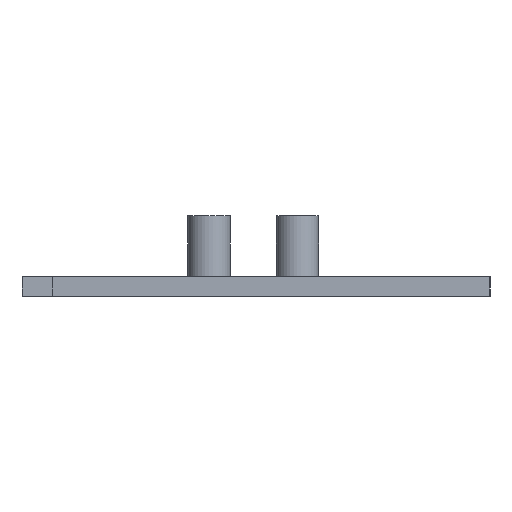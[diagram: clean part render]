
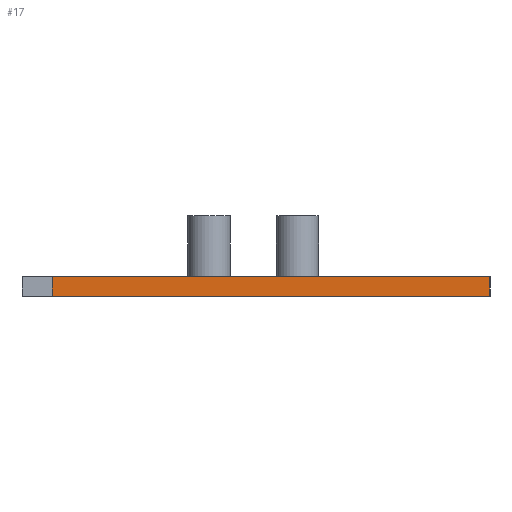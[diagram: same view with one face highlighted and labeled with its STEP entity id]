
A CAD part, left-side view. The second image highlights one B-rep face of the part: STEP entity #17.
In plain terms, the highlighted planar face has unit normal (-1, 0, 0).
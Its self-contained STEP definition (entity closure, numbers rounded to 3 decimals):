
#17 = ADVANCED_FACE('',(#18),#32,.F.);
#18 = FACE_BOUND('',#19,.F.);
#19 = EDGE_LOOP('',(#20,#55,#83,#111));
#20 = ORIENTED_EDGE('',*,*,#21,.F.);
#21 = EDGE_CURVE('',#22,#24,#26,.T.);
#22 = VERTEX_POINT('',#23);
#23 = CARTESIAN_POINT('',(-32.,18.4,0.));
#24 = VERTEX_POINT('',#25);
#25 = CARTESIAN_POINT('',(-32.,-21.15,0.));
#26 = SURFACE_CURVE('',#27,(#31,#43),.PCURVE_S1.);
#27 = LINE('',#28,#29);
#28 = CARTESIAN_POINT('',(-32.,21.15,0.));
#29 = VECTOR('',#30,1.);
#30 = DIRECTION('',(0.,-1.,0.));
#31 = PCURVE('',#32,#37);
#32 = PLANE('',#33);
#33 = AXIS2_PLACEMENT_3D('',#34,#35,#36);
#34 = CARTESIAN_POINT('',(-32.,21.15,0.));
#35 = DIRECTION('',(1.,0.,0.));
#36 = DIRECTION('',(0.,-1.,0.));
#37 = DEFINITIONAL_REPRESENTATION('',(#38),#42);
#38 = LINE('',#39,#40);
#39 = CARTESIAN_POINT('',(0.,0.));
#40 = VECTOR('',#41,1.);
#41 = DIRECTION('',(1.,0.));
#42 = ( GEOMETRIC_REPRESENTATION_CONTEXT(2) 
PARAMETRIC_REPRESENTATION_CONTEXT() REPRESENTATION_CONTEXT('2D SPACE',''
  ) );
#43 = PCURVE('',#44,#49);
#44 = PLANE('',#45);
#45 = AXIS2_PLACEMENT_3D('',#46,#47,#48);
#46 = CARTESIAN_POINT('',(-32.,21.15,0.));
#47 = DIRECTION('',(0.,0.,1.));
#48 = DIRECTION('',(0.,-1.,0.));
#49 = DEFINITIONAL_REPRESENTATION('',(#50),#54);
#50 = LINE('',#51,#52);
#51 = CARTESIAN_POINT('',(0.,0.));
#52 = VECTOR('',#53,1.);
#53 = DIRECTION('',(1.,0.));
#54 = ( GEOMETRIC_REPRESENTATION_CONTEXT(2) 
PARAMETRIC_REPRESENTATION_CONTEXT() REPRESENTATION_CONTEXT('2D SPACE',''
  ) );
#55 = ORIENTED_EDGE('',*,*,#56,.F.);
#56 = EDGE_CURVE('',#57,#22,#59,.T.);
#57 = VERTEX_POINT('',#58);
#58 = CARTESIAN_POINT('',(-32.,18.4,1.8));
#59 = SURFACE_CURVE('',#60,(#64,#71),.PCURVE_S1.);
#60 = LINE('',#61,#62);
#61 = CARTESIAN_POINT('',(-32.,18.4,-0.05));
#62 = VECTOR('',#63,1.);
#63 = DIRECTION('',(0.,0.,-1.));
#64 = PCURVE('',#32,#65);
#65 = DEFINITIONAL_REPRESENTATION('',(#66),#70);
#66 = LINE('',#67,#68);
#67 = CARTESIAN_POINT('',(2.75,0.05));
#68 = VECTOR('',#69,1.);
#69 = DIRECTION('',(0.,1.));
#70 = ( GEOMETRIC_REPRESENTATION_CONTEXT(2) 
PARAMETRIC_REPRESENTATION_CONTEXT() REPRESENTATION_CONTEXT('2D SPACE',''
  ) );
#71 = PCURVE('',#72,#77);
#72 = PLANE('',#73);
#73 = AXIS2_PLACEMENT_3D('',#74,#75,#76);
#74 = CARTESIAN_POINT('',(-32.1,18.4,-0.1));
#75 = DIRECTION('',(0.,-1.,0.));
#76 = DIRECTION('',(1.,0.,0.));
#77 = DEFINITIONAL_REPRESENTATION('',(#78),#82);
#78 = LINE('',#79,#80);
#79 = CARTESIAN_POINT('',(0.1,0.05));
#80 = VECTOR('',#81,1.);
#81 = DIRECTION('',(0.,-1.));
#82 = ( GEOMETRIC_REPRESENTATION_CONTEXT(2) 
PARAMETRIC_REPRESENTATION_CONTEXT() REPRESENTATION_CONTEXT('2D SPACE',''
  ) );
#83 = ORIENTED_EDGE('',*,*,#84,.T.);
#84 = EDGE_CURVE('',#57,#85,#87,.T.);
#85 = VERTEX_POINT('',#86);
#86 = CARTESIAN_POINT('',(-32.,-21.15,1.8));
#87 = SURFACE_CURVE('',#88,(#92,#99),.PCURVE_S1.);
#88 = LINE('',#89,#90);
#89 = CARTESIAN_POINT('',(-32.,21.15,1.8));
#90 = VECTOR('',#91,1.);
#91 = DIRECTION('',(0.,-1.,0.));
#92 = PCURVE('',#32,#93);
#93 = DEFINITIONAL_REPRESENTATION('',(#94),#98);
#94 = LINE('',#95,#96);
#95 = CARTESIAN_POINT('',(0.,-1.8));
#96 = VECTOR('',#97,1.);
#97 = DIRECTION('',(1.,0.));
#98 = ( GEOMETRIC_REPRESENTATION_CONTEXT(2) 
PARAMETRIC_REPRESENTATION_CONTEXT() REPRESENTATION_CONTEXT('2D SPACE',''
  ) );
#99 = PCURVE('',#100,#105);
#100 = PLANE('',#101);
#101 = AXIS2_PLACEMENT_3D('',#102,#103,#104);
#102 = CARTESIAN_POINT('',(-32.,21.15,1.8));
#103 = DIRECTION('',(0.,0.,1.));
#104 = DIRECTION('',(0.,-1.,0.));
#105 = DEFINITIONAL_REPRESENTATION('',(#106),#110);
#106 = LINE('',#107,#108);
#107 = CARTESIAN_POINT('',(0.,0.));
#108 = VECTOR('',#109,1.);
#109 = DIRECTION('',(1.,0.));
#110 = ( GEOMETRIC_REPRESENTATION_CONTEXT(2) 
PARAMETRIC_REPRESENTATION_CONTEXT() REPRESENTATION_CONTEXT('2D SPACE',''
  ) );
#111 = ORIENTED_EDGE('',*,*,#112,.F.);
#112 = EDGE_CURVE('',#24,#85,#113,.T.);
#113 = SURFACE_CURVE('',#114,(#118,#125),.PCURVE_S1.);
#114 = LINE('',#115,#116);
#115 = CARTESIAN_POINT('',(-32.,-21.15,0.));
#116 = VECTOR('',#117,1.);
#117 = DIRECTION('',(0.,0.,1.));
#118 = PCURVE('',#32,#119);
#119 = DEFINITIONAL_REPRESENTATION('',(#120),#124);
#120 = LINE('',#121,#122);
#121 = CARTESIAN_POINT('',(42.3,0.));
#122 = VECTOR('',#123,1.);
#123 = DIRECTION('',(0.,-1.));
#124 = ( GEOMETRIC_REPRESENTATION_CONTEXT(2) 
PARAMETRIC_REPRESENTATION_CONTEXT() REPRESENTATION_CONTEXT('2D SPACE',''
  ) );
#125 = PCURVE('',#126,#131);
#126 = PLANE('',#127);
#127 = AXIS2_PLACEMENT_3D('',#128,#129,#130);
#128 = CARTESIAN_POINT('',(-32.,-21.15,0.));
#129 = DIRECTION('',(0.,-1.,0.));
#130 = DIRECTION('',(1.,0.,0.));
#131 = DEFINITIONAL_REPRESENTATION('',(#132),#136);
#132 = LINE('',#133,#134);
#133 = CARTESIAN_POINT('',(0.,0.));
#134 = VECTOR('',#135,1.);
#135 = DIRECTION('',(0.,1.));
#136 = ( GEOMETRIC_REPRESENTATION_CONTEXT(2) 
PARAMETRIC_REPRESENTATION_CONTEXT() REPRESENTATION_CONTEXT('2D SPACE',''
  ) );
